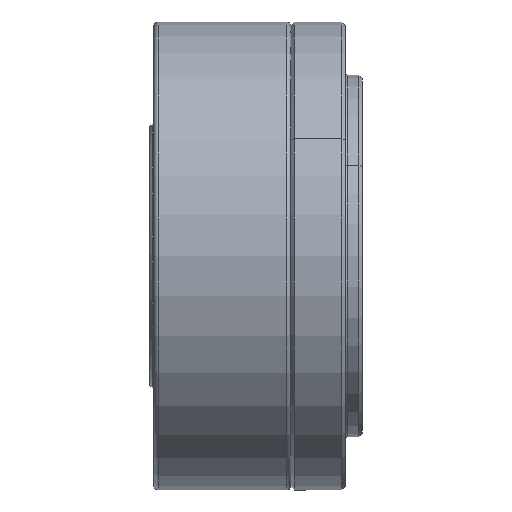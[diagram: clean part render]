
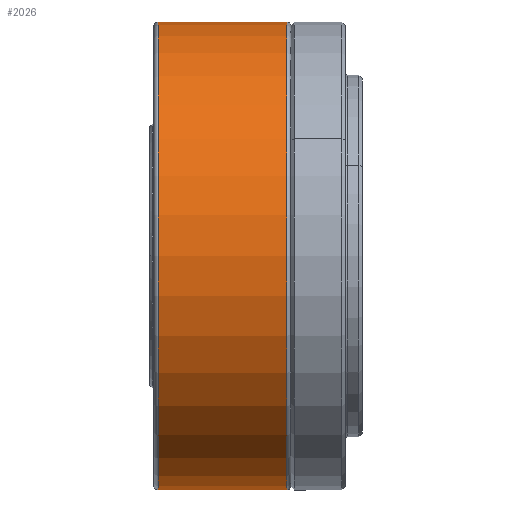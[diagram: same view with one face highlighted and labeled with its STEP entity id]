
A CAD part, top view. The second image highlights one B-rep face of the part: STEP entity #2026.
In plain terms, the highlighted cylindrical face has radius 27.5 mm (diameter 55 mm), a partial arc.
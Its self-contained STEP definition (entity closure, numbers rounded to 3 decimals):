
#740 = AXIS2_PLACEMENT_3D ( 'NONE', #7419, #834, #8502 ) ;
#834 = DIRECTION ( 'NONE',  ( -1., 0., 0. ) ) ;
#844 = LINE ( 'NONE', #12969, #12138 ) ;
#893 = DIRECTION ( 'NONE',  ( 0., -1., 0. ) ) ;
#1569 = EDGE_CURVE ( 'NONE', #2463, #7078, #7972, .T. ) ;
#1808 = CIRCLE ( 'NONE', #740, 27.5 ) ;
#1855 = CARTESIAN_POINT ( 'NONE',  ( -12.9, 0., 0. ) ) ;
#1975 = AXIS2_PLACEMENT_3D ( 'NONE', #10034, #3467, #11157 ) ;
#2026 = ADVANCED_FACE ( 'NONE', ( #14098 ), #5376, .T. ) ;
#2328 = VERTEX_POINT ( 'NONE', #11350 ) ;
#2463 = VERTEX_POINT ( 'NONE', #13646 ) ;
#3467 = DIRECTION ( 'NONE',  ( -1., 0., 0. ) ) ;
#4085 = ORIENTED_EDGE ( 'NONE', *, *, #8260, .T. ) ;
#5121 = CIRCLE ( 'NONE', #1975, 27.5 ) ;
#5376 = CYLINDRICAL_SURFACE ( 'NONE', #7593, 27.5 ) ;
#5716 = DIRECTION ( 'NONE',  ( -1., 0., 0. ) ) ;
#5786 = CARTESIAN_POINT ( 'NONE',  ( -12.9, -27.5, 0. ) ) ;
#6665 = ORIENTED_EDGE ( 'NONE', *, *, #7202, .T. ) ;
#7078 = VERTEX_POINT ( 'NONE', #7355 ) ;
#7120 = CARTESIAN_POINT ( 'NONE',  ( 6.6, 27.5, 0. ) ) ;
#7202 = EDGE_CURVE ( 'NONE', #10125, #2328, #844, .T. ) ;
#7355 = CARTESIAN_POINT ( 'NONE',  ( -8.5, -27.5, 0. ) ) ;
#7380 = DIRECTION ( 'NONE',  ( -1., 0., 0. ) ) ;
#7419 = CARTESIAN_POINT ( 'NONE',  ( 6.6, 0., 0. ) ) ;
#7593 = AXIS2_PLACEMENT_3D ( 'NONE', #1855, #7380, #893 ) ;
#7920 = EDGE_CURVE ( 'NONE', #7078, #2328, #5121, .T. ) ;
#7972 = LINE ( 'NONE', #5786, #10528 ) ;
#8260 = EDGE_CURVE ( 'NONE', #2463, #10125, #1808, .T. ) ;
#8502 = DIRECTION ( 'NONE',  ( 0., -1., 0. ) ) ;
#9716 = DIRECTION ( 'NONE',  ( -1., 0., 0. ) ) ;
#10034 = CARTESIAN_POINT ( 'NONE',  ( -8.5, 0., 0. ) ) ;
#10125 = VERTEX_POINT ( 'NONE', #7120 ) ;
#10528 = VECTOR ( 'NONE', #5716, 1000. ) ;
#10653 = EDGE_LOOP ( 'NONE', ( #4085, #6665, #11452, #14014 ) ) ;
#11157 = DIRECTION ( 'NONE',  ( 0., -1., 0. ) ) ;
#11350 = CARTESIAN_POINT ( 'NONE',  ( -8.5, 27.5, 0. ) ) ;
#11452 = ORIENTED_EDGE ( 'NONE', *, *, #7920, .F. ) ;
#12138 = VECTOR ( 'NONE', #9716, 1000. ) ;
#12969 = CARTESIAN_POINT ( 'NONE',  ( -12.9, 27.5, 0. ) ) ;
#13646 = CARTESIAN_POINT ( 'NONE',  ( 6.6, -27.5, 0. ) ) ;
#14014 = ORIENTED_EDGE ( 'NONE', *, *, #1569, .F. ) ;
#14098 = FACE_OUTER_BOUND ( 'NONE', #10653, .T. ) ;
